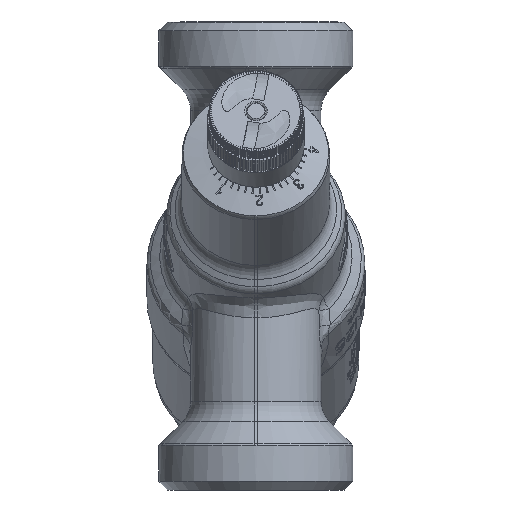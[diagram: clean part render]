
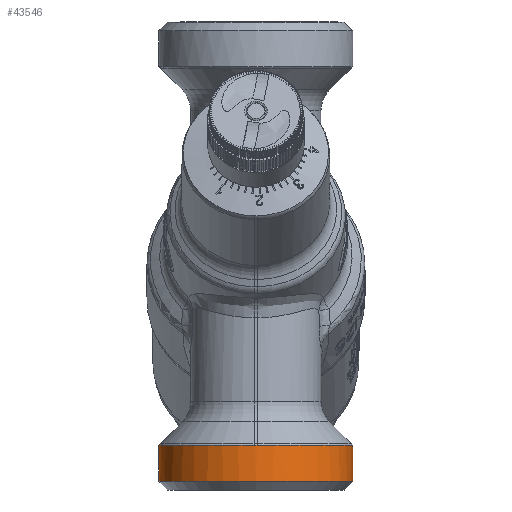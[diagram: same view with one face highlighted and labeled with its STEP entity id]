
A CAD part, front view. The second image highlights one B-rep face of the part: STEP entity #43546.
In plain terms, the highlighted cylindrical face has radius 16.6 mm (diameter 33.2 mm), a full revolution.
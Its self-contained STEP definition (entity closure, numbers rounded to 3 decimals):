
#1958=CIRCLE('',#46625,16.6);
#1959=CIRCLE('',#46627,16.6);
#1960=CIRCLE('',#46628,16.6);
#5367=FACE_OUTER_BOUND('',#7886,.T.);
#7886=EDGE_LOOP('',(#30285,#30286,#30287,#30288,#30289,#30290,#30291,#30292,
#30293,#30294,#30295,#30296,#30297,#30298));
#10566=B_SPLINE_CURVE_WITH_KNOTS('',3,(#62438,#62439,#62440,#62441),
 .UNSPECIFIED.,.F.,.F.,(4,4),(5.17,5.2),
 .UNSPECIFIED.);
#10567=B_SPLINE_CURVE_WITH_KNOTS('',3,(#62443,#62444,#62445,#62446,#62447,
#62448,#62449,#62450,#62451,#62452,#62453,#62454),.UNSPECIFIED.,.F.,.F.,
(4,2,2,2,2,4),(-0.002,-0.002,-0.002,
-0.002,-0.001,0.),
 .UNSPECIFIED.);
#10568=B_SPLINE_CURVE_WITH_KNOTS('',3,(#62458,#62459,#62460,#62461,#62462,
#62463),.UNSPECIFIED.,.F.,.F.,(4,2,4),(-0.079,-0.039,
0.),.UNSPECIFIED.);
#10569=B_SPLINE_CURVE_WITH_KNOTS('',3,(#62465,#62466,#62467,#62468,#62469,
#62470),.UNSPECIFIED.,.F.,.F.,(4,2,4),(5.096,5.2,
5.333),.UNSPECIFIED.);
#10570=B_SPLINE_CURVE_WITH_KNOTS('',3,(#62472,#62473,#62474,#62475,#62476,
#62477),.UNSPECIFIED.,.F.,.F.,(4,2,4),(-0.068,-0.035,
0.),.UNSPECIFIED.);
#10571=B_SPLINE_CURVE_WITH_KNOTS('',3,(#62480,#62481,#62482,#62483,#62484,
#62485,#62486,#62487,#62488,#62489,#62490,#62491),.UNSPECIFIED.,.F.,.F.,
(4,2,2,2,2,4),(-0.002,-0.002,-0.001,
-0.001,0.,0.),
 .UNSPECIFIED.);
#10572=B_SPLINE_CURVE_WITH_KNOTS('',3,(#62492,#62493,#62494,#62495),
 .UNSPECIFIED.,.F.,.F.,(4,4),(5.2,5.23),
 .UNSPECIFIED.);
#12099=LINE('',#62110,#15388);
#12109=LINE('',#62304,#15398);
#12122=LINE('',#62437,#15411);
#15388=VECTOR('',#50228,10.);
#15398=VECTOR('',#50244,10.);
#15411=VECTOR('',#50337,16.6);
#18781=VERTEX_POINT('',#62107);
#18782=VERTEX_POINT('',#62109);
#18805=VERTEX_POINT('',#62295);
#18806=VERTEX_POINT('',#62303);
#18836=VERTEX_POINT('',#62432);
#18837=VERTEX_POINT('',#62436);
#18838=VERTEX_POINT('',#62442);
#18839=VERTEX_POINT('',#62455);
#18840=VERTEX_POINT('',#62457);
#18841=VERTEX_POINT('',#62464);
#18842=VERTEX_POINT('',#62471);
#18843=VERTEX_POINT('',#62478);
#23306=EDGE_CURVE('',#18781,#18782,#12099,.T.);
#23332=EDGE_CURVE('',#18805,#18806,#12109,.T.);
#23373=EDGE_CURVE('',#18836,#18836,#1958,.T.);
#23374=EDGE_CURVE('',#18836,#18837,#12122,.T.);
#23375=EDGE_CURVE('',#18806,#18837,#10566,.T.);
#23376=EDGE_CURVE('',#18838,#18805,#10567,.T.);
#23377=EDGE_CURVE('',#18839,#18838,#1959,.T.);
#23378=EDGE_CURVE('',#18840,#18839,#10568,.T.);
#23379=EDGE_CURVE('',#18841,#18840,#10569,.T.);
#23380=EDGE_CURVE('',#18842,#18841,#10570,.T.);
#23381=EDGE_CURVE('',#18843,#18842,#1960,.T.);
#23382=EDGE_CURVE('',#18782,#18843,#10571,.T.);
#23383=EDGE_CURVE('',#18837,#18781,#10572,.T.);
#30285=ORIENTED_EDGE('',*,*,#23373,.F.);
#30286=ORIENTED_EDGE('',*,*,#23374,.T.);
#30287=ORIENTED_EDGE('',*,*,#23375,.F.);
#30288=ORIENTED_EDGE('',*,*,#23332,.F.);
#30289=ORIENTED_EDGE('',*,*,#23376,.F.);
#30290=ORIENTED_EDGE('',*,*,#23377,.F.);
#30291=ORIENTED_EDGE('',*,*,#23378,.F.);
#30292=ORIENTED_EDGE('',*,*,#23379,.F.);
#30293=ORIENTED_EDGE('',*,*,#23380,.F.);
#30294=ORIENTED_EDGE('',*,*,#23381,.F.);
#30295=ORIENTED_EDGE('',*,*,#23382,.F.);
#30296=ORIENTED_EDGE('',*,*,#23306,.F.);
#30297=ORIENTED_EDGE('',*,*,#23383,.F.);
#30298=ORIENTED_EDGE('',*,*,#23374,.F.);
#42997=CYLINDRICAL_SURFACE('',#46626,16.6);
#43546=ADVANCED_FACE('',(#5367),#42997,.T.);
#46625=AXIS2_PLACEMENT_3D('',#62434,#50333,#50334);
#46626=AXIS2_PLACEMENT_3D('',#62435,#50335,#50336);
#46627=AXIS2_PLACEMENT_3D('',#62456,#50338,#50339);
#46628=AXIS2_PLACEMENT_3D('',#62479,#50340,#50341);
#50228=DIRECTION('',(0.,0.,-1.));
#50244=DIRECTION('',(0.,0.,1.));
#50333=DIRECTION('center_axis',(0.,0.,-1.));
#50334=DIRECTION('ref_axis',(0.,1.,0.));
#50335=DIRECTION('center_axis',(0.,0.,1.));
#50336=DIRECTION('ref_axis',(0.,1.,0.));
#50337=DIRECTION('',(0.,0.,1.));
#50338=DIRECTION('center_axis',(0.,0.,1.));
#50339=DIRECTION('ref_axis',(0.,1.,0.));
#50340=DIRECTION('center_axis',(0.,0.,1.));
#50341=DIRECTION('ref_axis',(0.,1.,0.));
#62107=CARTESIAN_POINT('',(0.3,-16.497,-35.4));
#62109=CARTESIAN_POINT('',(0.3,-16.497,-35.413));
#62110=CARTESIAN_POINT('',(0.3,-16.497,-38.924));
#62295=CARTESIAN_POINT('',(-0.3,-16.497,-35.413));
#62303=CARTESIAN_POINT('',(-0.3,-16.497,-35.4));
#62304=CARTESIAN_POINT('',(-0.3,-16.497,-38.924));
#62432=CARTESIAN_POINT('',(0.,-16.5,-41.558));
#62434=CARTESIAN_POINT('Origin',(0.,0.1,-41.558));
#62435=CARTESIAN_POINT('Origin',(0.,0.1,-38.924));
#62436=CARTESIAN_POINT('',(0.,-16.5,-35.403));
#62437=CARTESIAN_POINT('',(0.,-16.5,-38.924));
#62438=CARTESIAN_POINT('Ctrl Pts',(-0.3,-16.497,
-35.4));
#62439=CARTESIAN_POINT('Ctrl Pts',(-0.2,-16.499,
-35.402));
#62440=CARTESIAN_POINT('Ctrl Pts',(-0.1,-16.5,-35.403));
#62441=CARTESIAN_POINT('Ctrl Pts',(0.,-16.5,-35.403));
#62442=CARTESIAN_POINT('',(-0.31,-16.497,-35.429));
#62443=CARTESIAN_POINT('Ctrl Pts',(-0.31,-16.497,
-35.429));
#62444=CARTESIAN_POINT('Ctrl Pts',(-0.309,-16.497,
-35.429));
#62445=CARTESIAN_POINT('Ctrl Pts',(-0.309,-16.497,
-35.429));
#62446=CARTESIAN_POINT('Ctrl Pts',(-0.308,-16.497,
-35.428));
#62447=CARTESIAN_POINT('Ctrl Pts',(-0.308,-16.497,
-35.428));
#62448=CARTESIAN_POINT('Ctrl Pts',(-0.306,-16.497,
-35.428));
#62449=CARTESIAN_POINT('Ctrl Pts',(-0.305,-16.497,
-35.427));
#62450=CARTESIAN_POINT('Ctrl Pts',(-0.303,-16.497,
-35.425));
#62451=CARTESIAN_POINT('Ctrl Pts',(-0.302,-16.497,
-35.423));
#62452=CARTESIAN_POINT('Ctrl Pts',(-0.301,-16.497,
-35.419));
#62453=CARTESIAN_POINT('Ctrl Pts',(-0.3,-16.497,
-35.416));
#62454=CARTESIAN_POINT('Ctrl Pts',(-0.3,-16.497,
-35.413));
#62455=CARTESIAN_POINT('',(-2.065,16.571,-35.429));
#62456=CARTESIAN_POINT('Origin',(0.,0.1,
-35.429));
#62457=CARTESIAN_POINT('',(-1.342,16.646,-35.17));
#62458=CARTESIAN_POINT('Ctrl Pts',(-1.342,16.646,-35.17));
#62459=CARTESIAN_POINT('Ctrl Pts',(-1.447,16.637,-35.25));
#62460=CARTESIAN_POINT('Ctrl Pts',(-1.562,16.627,-35.316));
#62461=CARTESIAN_POINT('Ctrl Pts',(-1.809,16.602,-35.407));
#62462=CARTESIAN_POINT('Ctrl Pts',(-1.935,16.587,-35.429));
#62463=CARTESIAN_POINT('Ctrl Pts',(-2.065,16.571,-35.429));
#62464=CARTESIAN_POINT('',(1.05,16.667,-35.194));
#62465=CARTESIAN_POINT('Ctrl Pts',(1.05,16.667,-35.194));
#62466=CARTESIAN_POINT('Ctrl Pts',(0.698,16.689,-35.219));
#62467=CARTESIAN_POINT('Ctrl Pts',(0.347,16.7,-35.232));
#62468=CARTESIAN_POINT('Ctrl Pts',(-0.443,16.7,-35.232));
#62469=CARTESIAN_POINT('Ctrl Pts',(-0.891,16.682,
-35.211));
#62470=CARTESIAN_POINT('Ctrl Pts',(-1.342,16.646,-35.17));
#62471=CARTESIAN_POINT('',(1.658,16.617,-35.429));
#62472=CARTESIAN_POINT('Ctrl Pts',(1.658,16.617,-35.429));
#62473=CARTESIAN_POINT('Ctrl Pts',(1.551,16.628,-35.429));
#62474=CARTESIAN_POINT('Ctrl Pts',(1.447,16.637,-35.409));
#62475=CARTESIAN_POINT('Ctrl Pts',(1.239,16.654,-35.329));
#62476=CARTESIAN_POINT('Ctrl Pts',(1.14,16.661,-35.267));
#62477=CARTESIAN_POINT('Ctrl Pts',(1.05,16.667,-35.194));
#62478=CARTESIAN_POINT('',(0.31,-16.497,-35.429));
#62479=CARTESIAN_POINT('Origin',(0.,0.1,
-35.429));
#62480=CARTESIAN_POINT('Ctrl Pts',(0.3,-16.497,
-35.413));
#62481=CARTESIAN_POINT('Ctrl Pts',(0.3,-16.497,
-35.415));
#62482=CARTESIAN_POINT('Ctrl Pts',(0.3,-16.497,-35.417));
#62483=CARTESIAN_POINT('Ctrl Pts',(0.301,-16.497,
-35.42));
#62484=CARTESIAN_POINT('Ctrl Pts',(0.301,-16.497,
-35.422));
#62485=CARTESIAN_POINT('Ctrl Pts',(0.303,-16.497,
-35.425));
#62486=CARTESIAN_POINT('Ctrl Pts',(0.304,-16.497,
-35.426));
#62487=CARTESIAN_POINT('Ctrl Pts',(0.306,-16.497,
-35.427));
#62488=CARTESIAN_POINT('Ctrl Pts',(0.306,-16.497,
-35.428));
#62489=CARTESIAN_POINT('Ctrl Pts',(0.308,-16.497,
-35.429));
#62490=CARTESIAN_POINT('Ctrl Pts',(0.309,-16.497,
-35.429));
#62491=CARTESIAN_POINT('Ctrl Pts',(0.31,-16.497,-35.429));
#62492=CARTESIAN_POINT('Ctrl Pts',(0.,-16.5,-35.403));
#62493=CARTESIAN_POINT('Ctrl Pts',(0.1,-16.5,-35.403));
#62494=CARTESIAN_POINT('Ctrl Pts',(0.2,-16.499,
-35.402));
#62495=CARTESIAN_POINT('Ctrl Pts',(0.3,-16.497,
-35.4));
